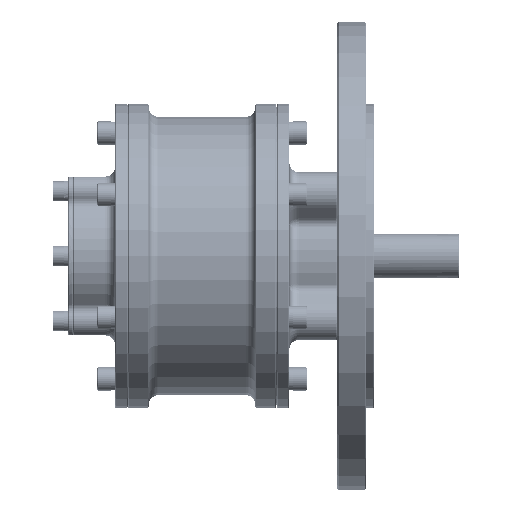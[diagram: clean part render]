
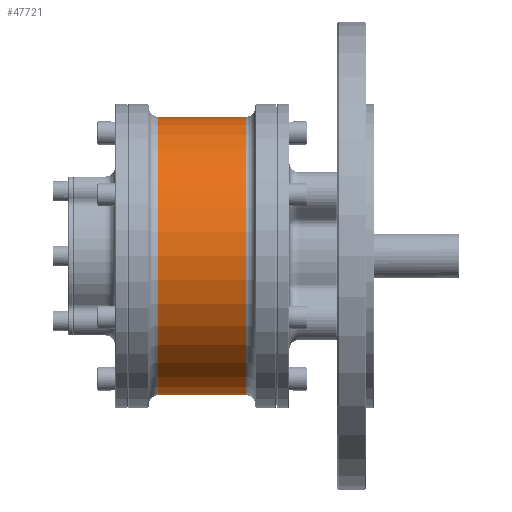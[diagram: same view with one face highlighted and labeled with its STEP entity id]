
A CAD part, front view. The second image highlights one B-rep face of the part: STEP entity #47721.
In plain terms, the highlighted cylindrical face has radius 59.5 mm (diameter 119 mm), a partial arc.
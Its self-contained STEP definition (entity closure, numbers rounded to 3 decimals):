
#4571 = CARTESIAN_POINT ( 'NONE',  ( -18.75, 0., 59.5 ) ) ;
#11302 = VECTOR ( 'NONE', #90342, 1000. ) ;
#14390 = AXIS2_PLACEMENT_3D ( 'NONE', #111614, #34514, #223202 ) ;
#20080 = VERTEX_POINT ( 'NONE', #110379 ) ;
#23858 = LINE ( 'NONE', #195702, #146793 ) ;
#28347 = CIRCLE ( 'NONE', #95182, 59.5 ) ;
#31730 = CARTESIAN_POINT ( 'NONE',  ( -22.75, 0., -59.5 ) ) ;
#34514 = DIRECTION ( 'NONE',  ( -1., 0., 0. ) ) ;
#34992 = DIRECTION ( 'NONE',  ( 1., 0., 0. ) ) ;
#47721 = ADVANCED_FACE ( 'NONE', ( #181902 ), #247670, .T. ) ;
#51390 = EDGE_CURVE ( 'NONE', #20080, #66996, #79926, .T. ) ;
#66970 = DIRECTION ( 'NONE',  ( 0., 0., -1. ) ) ;
#66996 = VERTEX_POINT ( 'NONE', #157234 ) ;
#71109 = CARTESIAN_POINT ( 'NONE',  ( -22.75, 0., 0. ) ) ;
#73608 = DIRECTION ( 'NONE',  ( 0., 0., -1. ) ) ;
#79926 = CIRCLE ( 'NONE', #14390, 59.5 ) ;
#90342 = DIRECTION ( 'NONE',  ( 1., 0., 0. ) ) ;
#95182 = AXIS2_PLACEMENT_3D ( 'NONE', #123947, #142411, #66970 ) ;
#110379 = CARTESIAN_POINT ( 'NONE',  ( 18.75, 0., -59.5 ) ) ;
#111614 = CARTESIAN_POINT ( 'NONE',  ( 18.75, 0., 0. ) ) ;
#123947 = CARTESIAN_POINT ( 'NONE',  ( -18.75, 0., 0. ) ) ;
#134356 = EDGE_CURVE ( 'NONE', #200595, #20080, #149342, .T. ) ;
#137113 = AXIS2_PLACEMENT_3D ( 'NONE', #71109, #34992, #73608 ) ;
#142411 = DIRECTION ( 'NONE',  ( 1., 0., 0. ) ) ;
#146793 = VECTOR ( 'NONE', #215043, 1000. ) ;
#149342 = LINE ( 'NONE', #31730, #11302 ) ;
#154779 = ORIENTED_EDGE ( 'NONE', *, *, #228523, .T. ) ;
#157234 = CARTESIAN_POINT ( 'NONE',  ( 18.75, 0., 59.5 ) ) ;
#164314 = VERTEX_POINT ( 'NONE', #4571 ) ;
#177210 = CARTESIAN_POINT ( 'NONE',  ( -18.75, 0., -59.5 ) ) ;
#181902 = FACE_OUTER_BOUND ( 'NONE', #237669, .T. ) ;
#185488 = ORIENTED_EDGE ( 'NONE', *, *, #199155, .F. ) ;
#195702 = CARTESIAN_POINT ( 'NONE',  ( -22.75, 0., 59.5 ) ) ;
#199155 = EDGE_CURVE ( 'NONE', #164314, #66996, #23858, .T. ) ;
#200595 = VERTEX_POINT ( 'NONE', #177210 ) ;
#204039 = ORIENTED_EDGE ( 'NONE', *, *, #51390, .T. ) ;
#208223 = ORIENTED_EDGE ( 'NONE', *, *, #134356, .T. ) ;
#215043 = DIRECTION ( 'NONE',  ( 1., 0., 0. ) ) ;
#223202 = DIRECTION ( 'NONE',  ( 0., 0., -1. ) ) ;
#228523 = EDGE_CURVE ( 'NONE', #164314, #200595, #28347, .T. ) ;
#237669 = EDGE_LOOP ( 'NONE', ( #185488, #154779, #208223, #204039 ) ) ;
#247670 = CYLINDRICAL_SURFACE ( 'NONE', #137113, 59.5 ) ;
